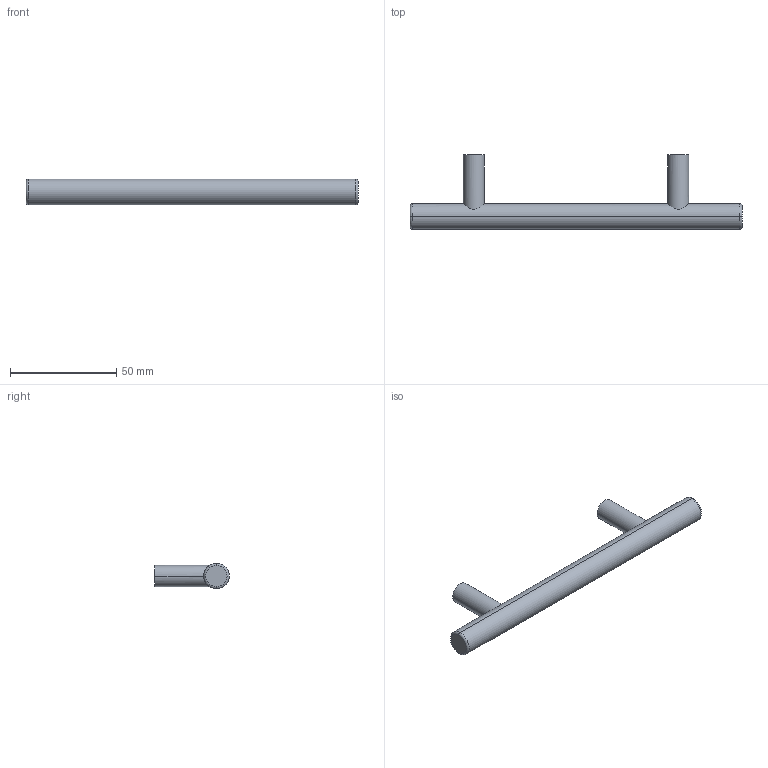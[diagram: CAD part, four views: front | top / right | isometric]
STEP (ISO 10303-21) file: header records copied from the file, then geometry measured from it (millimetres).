
FILE_DESCRIPTION( ( '' ), '1' );
FILE_NAME( 'D:/1.AUTOCAD EXPORT/Group 10/sheet_10_1/DONE/Sachin_1/9070674.stp', '2013-10-29T09:58:56', ( '' ), ( '' ), ' ', ' ', ' ' );
FILE_SCHEMA( ( 'CONFIG_CONTROL_DESIGN' ) );
Length unit declared in the file: millimetre
Products named in the file (1): 1
Bounding box: 156 x 35 x 12 mm (x, y, z)
Volume: 21130.6 mm3; surface area: 7778.8 mm2
Topology: 1 solids, 1 shells, 20 faces, 44 edges, 30 vertices
Faces by surface type: cylinder 10, plane 6, torus 4
Entity records: 738 total; most frequent: CARTESIAN_POINT 229, DIRECTION 108, ORIENTED_EDGE 88, AXIS2_PLACEMENT_3D 49, EDGE_CURVE 44, VERTEX_POINT 30, CIRCLE 28, EDGE_LOOP 24
